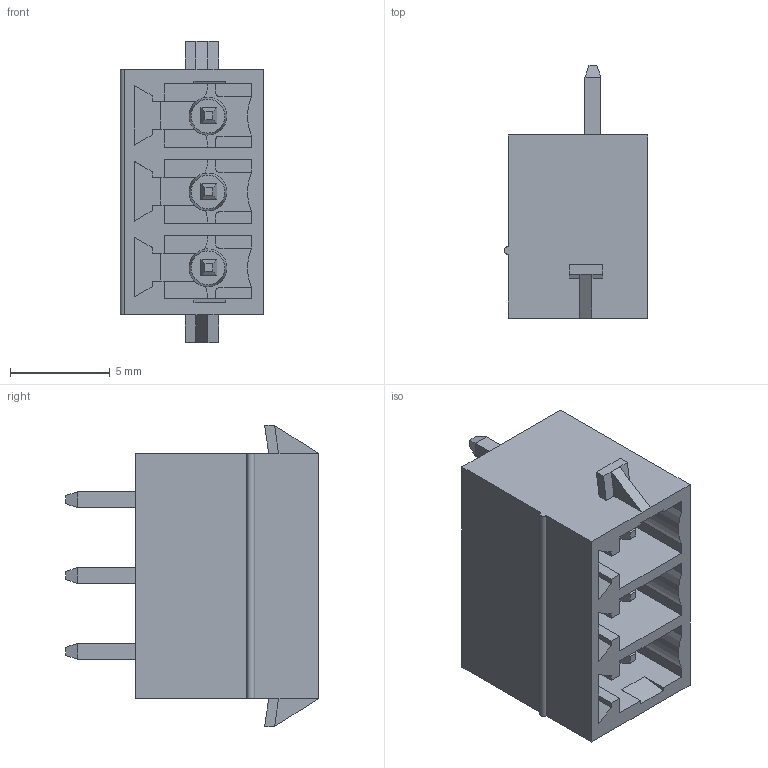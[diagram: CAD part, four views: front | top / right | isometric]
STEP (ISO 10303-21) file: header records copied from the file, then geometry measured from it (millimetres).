
FILE_DESCRIPTION((''),'2;1');
FILE_NAME('3P','2022-06-10T',('renkang.li'),(''),'CREO PARAMETRIC BY PTC INC, 2016260','CREO PARAMETRIC BY PTC INC, 2016260','');
FILE_SCHEMA(('CONFIG_CONTROL_DESIGN'));
Length unit declared in the file: millimetre
Products named in the file (1): 3P
Bounding box: 7.2 x 12.7 x 15.12 mm (x, y, z)
Volume: 403.2 mm3; surface area: 1246.2 mm2
Topology: 1 solids, 1 shells, 347 faces, 978 edges, 630 vertices
Faces by surface type: plane 316, cylinder 25, cone 6
Entity records: 11034 total; most frequent: ORIENTED_EDGE 1956, CARTESIAN_POINT 1955, DIRECTION 1760, EDGE_CURVE 978, VECTOR 890, LINE 890, VERTEX_POINT 630, AXIS2_PLACEMENT_3D 435
